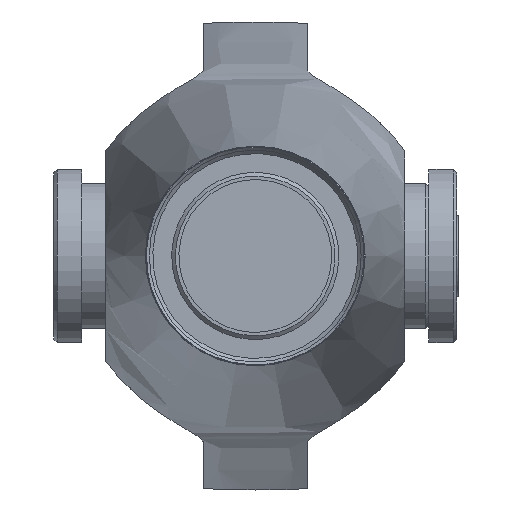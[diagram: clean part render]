
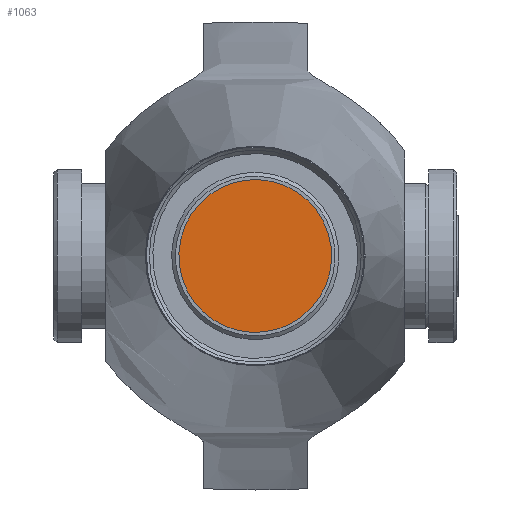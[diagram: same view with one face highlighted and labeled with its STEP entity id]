
A CAD part, left-side view. The second image highlights one B-rep face of the part: STEP entity #1063.
In plain terms, the highlighted planar face has unit normal (-1, 0, 0).
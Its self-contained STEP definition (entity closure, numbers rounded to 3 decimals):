
#84=PLANE('',#1161);
#116=FACE_OUTER_BOUND('',#180,.T.);
#180=EDGE_LOOP('',(#701,#702));
#359=CIRCLE('',#1159,22.);
#360=CIRCLE('',#1160,22.);
#427=VERTEX_POINT('',#1618);
#428=VERTEX_POINT('',#1620);
#537=EDGE_CURVE('',#428,#427,#359,.T.);
#538=EDGE_CURVE('',#427,#428,#360,.T.);
#701=ORIENTED_EDGE('',*,*,#537,.T.);
#702=ORIENTED_EDGE('',*,*,#538,.T.);
#1063=ADVANCED_FACE('',(#116),#84,.T.);
#1159=AXIS2_PLACEMENT_3D('',#1621,#1310,#1311);
#1160=AXIS2_PLACEMENT_3D('',#1622,#1312,#1313);
#1161=AXIS2_PLACEMENT_3D('',#1623,#1314,#1315);
#1310=DIRECTION('center_axis',(-1.,0.,0.));
#1311=DIRECTION('ref_axis',(0.,0.458,0.889));
#1312=DIRECTION('center_axis',(-1.,0.,0.));
#1313=DIRECTION('ref_axis',(0.,0.458,0.889));
#1314=DIRECTION('center_axis',(-1.,0.,0.));
#1315=DIRECTION('ref_axis',(0.,0.458,0.889));
#1618=CARTESIAN_POINT('',(-454.,19.552,-10.086));
#1620=CARTESIAN_POINT('',(-454.,-19.552,10.086));
#1621=CARTESIAN_POINT('Origin',(-454.,0.,
0.));
#1622=CARTESIAN_POINT('Origin',(-454.,0.,
0.));
#1623=CARTESIAN_POINT('Origin',(-454.,0.,
0.));
